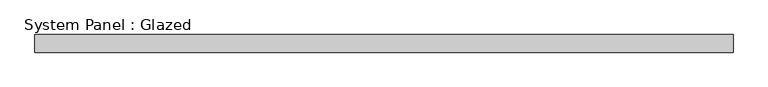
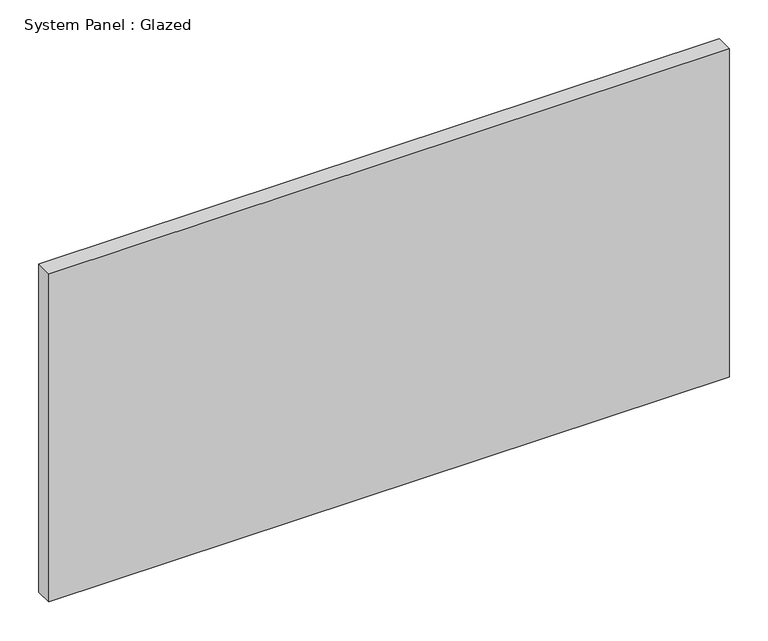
"""IFC4 building model written with IfcOpenShell, lengths in millimetres: plate geometry, System Panel : Glazed."""

from ifc_helpers import new_model, si_unit, origin, origin_with_axes, place, context, project, spatial, polyline, outline, extrude, source, transform, mapped, element, save


def system_panel_glazed_ff626234(model_context):
    return source(origin(), model_context, "Body", "SweptSolid", [
        extrude(outline(polyline([(503.9089253, 19.05), (-503.9089253, 19.05), (-503.9089253, 44.45), (503.9089253, 44.45), (503.9089253, 19.05)])), origin_with_axes(), (0.0, 0.0, 1.0), 514.35),
    ])


if __name__ == "__main__":
    model = new_model("IFC4")
    model_context = context("Model", 3, world=origin())
    ifc_project = project(units=[si_unit("LENGTHUNIT", "METRE", prefix="MILLI")], contexts=[model_context])
    site = spatial("IfcSite", under=ifc_project)
    building = spatial("IfcBuilding", under=site)
    placement = place(None, origin())
    system_panel_glazed_shape = system_panel_glazed_ff626234(model_context)
    element("IfcPlate", 1, ObjectType="System Panel : Glazed", at=placement, inside=building, context=model_context, shape_type="MappedRepresentation", body=[
        mapped(system_panel_glazed_shape, transform((0.0, 0.0, 0.0), x_axis=(1.0, 0.0, 0.0), y_axis=(0.0, 1.0, 0.0), z_axis=(0.0, 0.0, 1.0))),
    ])
    save(model, "model.ifc")
